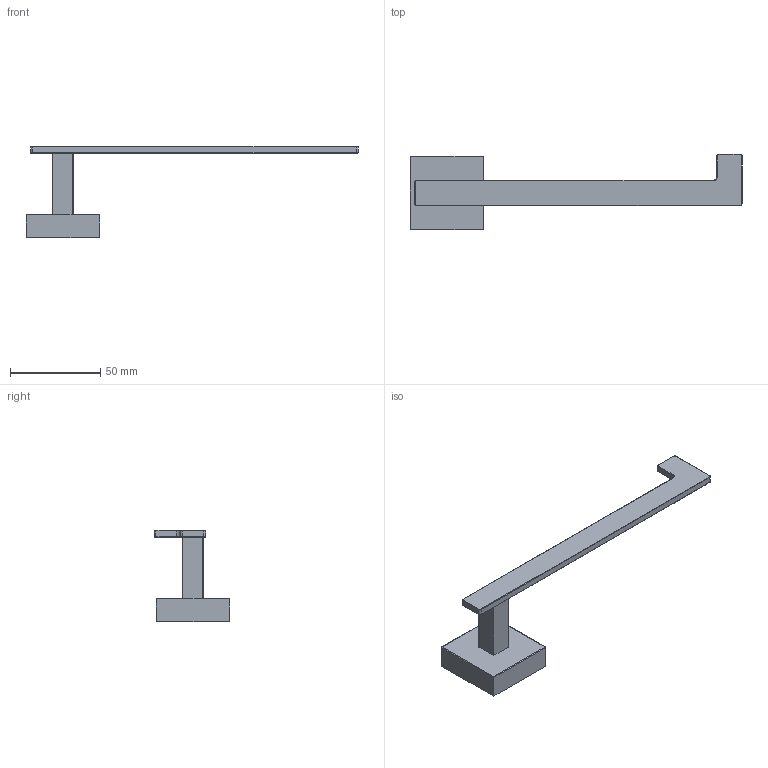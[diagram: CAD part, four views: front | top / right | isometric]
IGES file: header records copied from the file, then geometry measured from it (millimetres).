
Global section: file name: 211ab6de-697a-4668-8a55-4e029cc8b190; native system: unknown; preprocessor: unknown; author: unknown; organization: unknown; date: 20200108.144022; units: millimetre
Bounding box: 184.35 x 42.1 x 50.6 mm (x, y, z)
Volume: 23318.1 mm3; surface area: 15493.7 mm2
Topology: 2 solids, 2 shells, 70 faces, 156 edges, 92 vertices
Faces by surface type: bspline 70
